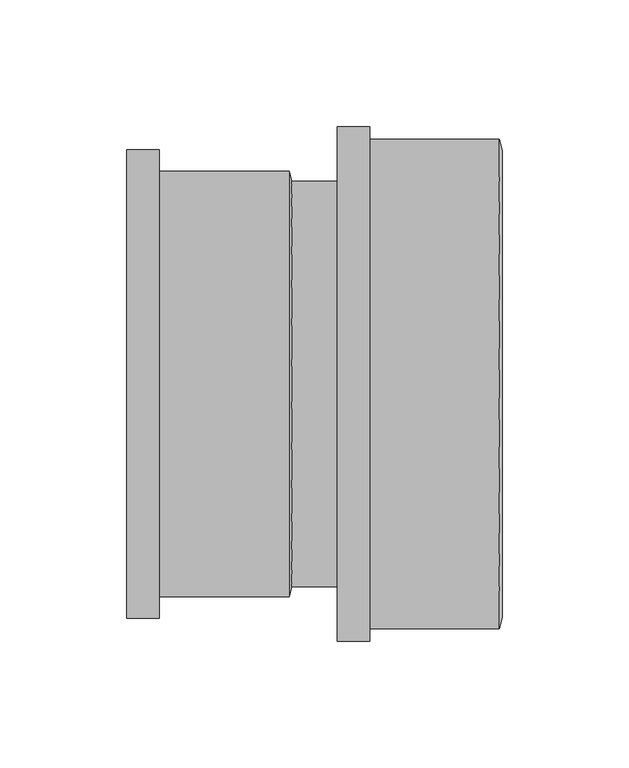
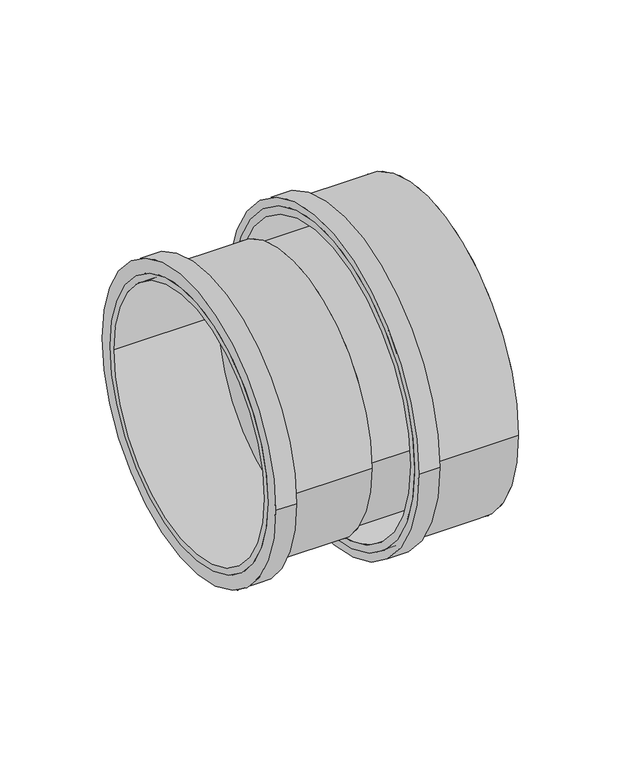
"""IFC4 building model written with IfcOpenShell, lengths in millimetres: pipe fitting geometry, Superdrain SKAM Single socket : Superdrain SKAM Single socket."""

from ifc_helpers import new_model, si_unit, point, frame, origin, origin_2d, place, context, project, spatial, polyline, circle_curve, trimmed, segment, composite_curve, outline, extrude, source, transform, mapped, element, save
from ifc_brep_helpers import plane_surface, revolved_surface, advanced_brep


def pipe_fitting_6b5410aa(model_context):
    return source(origin(), model_context, "Body", "SolidModel", [
        extrude(outline(composite_curve([segment(trimmed(circle_curve(origin_2d(), 96.6), [point((-96.6, 0.0))], [point((96.6, 0.0))], False, "CARTESIAN"), True, "CONTINUOUS"), segment(trimmed(circle_curve(origin_2d(), 96.6), [point((96.6, 0.0))], [point((-96.6, 0.0))], False, "CARTESIAN"), True, "CONTINUOUS")], self_intersect=False), holes=[composite_curve([segment(trimmed(circle_curve(origin_2d(), 92.0), [point((-92.0, 0.0))], [point((92.0, 0.0))], True, "CARTESIAN"), True, "CONTINUOUS"), segment(trimmed(circle_curve(origin_2d(), 92.0), [point((92.0, 0.0))], [point((-92.0, 0.0))], True, "CARTESIAN"), True, "CONTINUOUS")], self_intersect=False)]), frame((14.0, 0.0, 0.0), z_axis=(1.0, 0.0, 0.0), x_axis=(0.0, 1.0, 0.0)), (0.0, 0.0, 1.0), 64.0),
        extrude(outline(composite_curve([segment(trimmed(circle_curve(origin_2d(), 101.43), [point((-101.43, 0.0))], [point((101.43, 0.0))], False, "CARTESIAN"), True, "CONTINUOUS"), segment(trimmed(circle_curve(origin_2d(), 101.43), [point((101.43, 0.0))], [point((-101.43, 0.0))], False, "CARTESIAN"), True, "CONTINUOUS")], self_intersect=False), holes=[composite_curve([segment(trimmed(circle_curve(origin_2d(), 92.0), [point((-92.0, 0.0))], [point((92.0, 0.0))], True, "CARTESIAN"), True, "CONTINUOUS"), segment(trimmed(circle_curve(origin_2d(), 92.0), [point((92.0, 0.0))], [point((-92.0, 0.0))], True, "CARTESIAN"), True, "CONTINUOUS")], self_intersect=False)]), frame((14.0, 0.0, 0.0), z_axis=(1.0, 0.0, 0.0), x_axis=(0.0, 1.0, 0.0)), (0.0, 0.0, 1.0), 12.8),
        advanced_brep(
        [(79.0, -92.0, 0.0), (79.0, 92.0, 0.0), (78.0, -96.6, 0.0), (78.0, 96.6, 0.0)],
        [
            (0, 1, circle_curve(frame((79.0, 0.0, 0.0), z_axis=(1.0, 0.0, 0.0), x_axis=(0.0, -1.0, 0.0)), 92.0)),
            (1, 0, circle_curve(frame((79.0, 0.0, 0.0), z_axis=(1.0, 0.0, 0.0), x_axis=(0.0, 1.0, 0.0)), 92.0)),
            (2, 3, circle_curve(frame((78.0, 0.0, 0.0), z_axis=(-1.0, 0.0, 0.0), x_axis=(0.0, 1.0, 0.0)), 96.6)),
            (3, 2, circle_curve(frame((78.0, 0.0, 0.0), z_axis=(-1.0, 0.0, 0.0), x_axis=(0.0, -1.0, 0.0)), 96.6)),
            (3, 1),
            (0, 2),
        ],
        [
            plane_surface(frame((79.0, 0.0, 0.0), z_axis=(1.0, 0.0, 0.0), x_axis=(0.0, 0.0, -1.0))),
            plane_surface(frame((78.0, 0.0, 0.0), z_axis=(-1.0, 0.0, 0.0), x_axis=(0.0, 0.0, -1.0))),
            revolved_surface(polyline([(79.0, -91.99999999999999, 0.0), (78.0, -96.6, 0.0)]), (99.0, 0.0, 0.0), (-1.0, 0.0, 0.0)),
            revolved_surface(polyline([(79.0, 91.99999999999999, 0.0), (78.0, 96.6, 0.0)]), (99.0, 0.0, 0.0), (-1.0, 0.0, 0.0)),
        ],
        [
            (0, [[1, 2]]),
            (1, [[3, 4]]),
            (2, [[-4, 5, -1, 6]]),
            (3, [[-3, -6, -2, -5]]),
        ],
    ),
        extrude(outline(composite_curve([segment(trimmed(circle_curve(origin_2d(), 84.0), [point((-84.0, 0.0))], [point((84.0, 0.0))], False, "CARTESIAN"), True, "CONTINUOUS"), segment(trimmed(circle_curve(origin_2d(), 84.0), [point((84.0, 0.0))], [point((-84.0, 0.0))], False, "CARTESIAN"), True, "CONTINUOUS")], self_intersect=False), holes=[composite_curve([segment(trimmed(circle_curve(origin_2d(), 80.0), [point((-80.0, 0.0))], [point((80.0, 0.0))], True, "CARTESIAN"), True, "CONTINUOUS"), segment(trimmed(circle_curve(origin_2d(), 80.0), [point((80.0, 0.0))], [point((-80.0, 0.0))], True, "CARTESIAN"), True, "CONTINUOUS")], self_intersect=False)]), frame((-69.0, 0.0, 0.0), z_axis=(1.0, 0.0, 0.0), x_axis=(0.0, 1.0, 0.0)), (0.0, 0.0, 1.0), 64.0),
        extrude(outline(composite_curve([segment(trimmed(circle_curve(origin_2d(), 92.4), [point((-92.4, 0.0))], [point((92.4, 0.0))], False, "CARTESIAN"), True, "CONTINUOUS"), segment(trimmed(circle_curve(origin_2d(), 92.4), [point((92.4, 0.0))], [point((-92.4, 0.0))], False, "CARTESIAN"), True, "CONTINUOUS")], self_intersect=False), holes=[composite_curve([segment(trimmed(circle_curve(origin_2d(), 80.0), [point((-80.0, 0.0))], [point((80.0, 0.0))], True, "CARTESIAN"), True, "CONTINUOUS"), segment(trimmed(circle_curve(origin_2d(), 80.0), [point((80.0, 0.0))], [point((-80.0, 0.0))], True, "CARTESIAN"), True, "CONTINUOUS")], self_intersect=False)]), frame((-69.0, 0.0, 0.0), z_axis=(1.0, 0.0, 0.0), x_axis=(0.0, 1.0, 0.0)), (0.0, 0.0, 1.0), 12.8),
        advanced_brep(
        [(-4.0, -80.0, 0.0), (-4.0, 80.0, 0.0), (-5.0, -84.0, 0.0), (-5.0, 84.0, 0.0)],
        [
            (0, 1, circle_curve(frame((-4.0, 0.0, 0.0), z_axis=(1.0, 0.0, 0.0), x_axis=(0.0, -1.0, 0.0)), 80.0)),
            (1, 0, circle_curve(frame((-4.0, 0.0, 0.0), z_axis=(1.0, 0.0, 0.0), x_axis=(0.0, 1.0, 0.0)), 80.0)),
            (2, 3, circle_curve(frame((-5.0, 0.0, 0.0), z_axis=(-1.0, 0.0, 0.0), x_axis=(0.0, 1.0, 0.0)), 84.0)),
            (3, 2, circle_curve(frame((-5.0, 0.0, 0.0), z_axis=(-1.0, 0.0, 0.0), x_axis=(0.0, -1.0, 0.0)), 84.0)),
            (3, 1),
            (0, 2),
        ],
        [
            plane_surface(frame((-4.0, 0.0, 0.0), z_axis=(1.0, 0.0, 0.0), x_axis=(0.0, 0.0, -1.0))),
            plane_surface(frame((-5.0, 0.0, 0.0), z_axis=(-1.0, 0.0, 0.0), x_axis=(0.0, 0.0, -1.0))),
            revolved_surface(polyline([(-4.0, -80.0, 0.0), (-5.0, -84.0, 0.0)]), (16.0, 0.0, 0.0), (-1.0, 0.0, 0.0)),
            revolved_surface(polyline([(-4.0, 80.0, 0.0), (-5.0, 84.0, 0.0)]), (16.0, 0.0, 0.0), (-1.0, 0.0, 0.0)),
        ],
        [
            (0, [[1, 2]]),
            (1, [[3, 4]]),
            (2, [[-4, 5, -1, 6]]),
            (3, [[-3, -6, -2, -5]]),
        ],
    ),
        extrude(outline(composite_curve([segment(trimmed(circle_curve(origin_2d(), 80.0), [point((-80.0, 0.0))], [point((80.0, 0.0))], False, "CARTESIAN"), True, "CONTINUOUS"), segment(trimmed(circle_curve(origin_2d(), 80.0), [point((80.0, 0.0))], [point((-80.0, 0.0))], False, "CARTESIAN"), True, "CONTINUOUS")], self_intersect=False)), frame((-5.0, 0.0, 0.0), z_axis=(1.0, 0.0, 0.0), x_axis=(0.0, 1.0, 0.0)), (0.0, 0.0, 1.0), 83.0),
    ])


if __name__ == "__main__":
    model = new_model("IFC4")
    model_context = context("Model", 3, world=origin())
    ifc_project = project(units=[si_unit("LENGTHUNIT", "METRE", prefix="MILLI")], contexts=[model_context])
    site = spatial("IfcSite", under=ifc_project)
    building = spatial("IfcBuilding", under=site)
    placement = place(None, origin())
    pipe_fitting_shape = pipe_fitting_6b5410aa(model_context)
    element("IfcPipeFitting", 1, ObjectType="Superdrain SKAM Single socket : Superdrain SKAM Single socket", at=placement, inside=building, context=model_context, shape_type="MappedRepresentation", body=[
        mapped(pipe_fitting_shape, transform((0.0, 0.0, 0.0), x_axis=(1.0, 0.0, 0.0), y_axis=(0.0, 1.0, 0.0), z_axis=(0.0, 0.0, 1.0))),
    ])
    save(model, "model.ifc")
